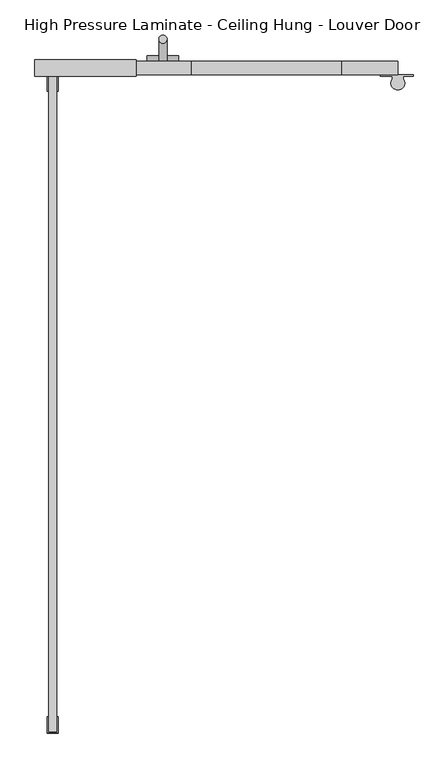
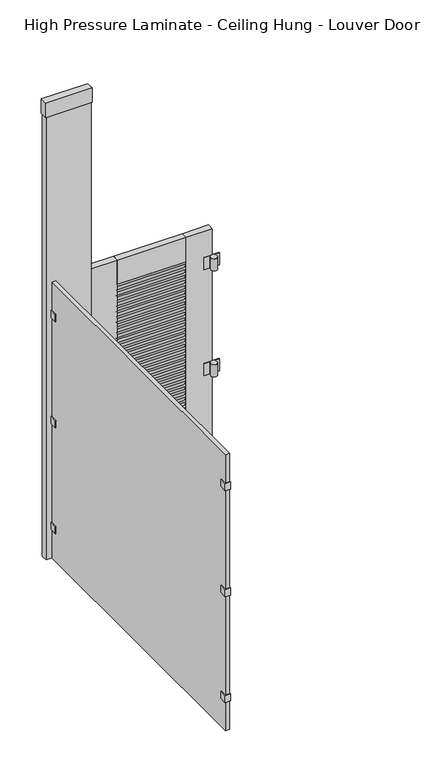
"""IFC4 building model written with IfcOpenShell, lengths in millimetres: proxy geometry, Toilet-Partition_Ironwood-Mfg_High-Pressure-Laminate : High Pressure Laminate - Ceiling Hung - Louver Door."""

from ifc_helpers import new_model, si_unit, point, frame, frame_2d, origin, place, context, project, spatial, polyline, circle_curve, ellipse_curve, trimmed, segment, composite_curve, outline, extrude, source, transform, mapped, element, save
from ifc_brep_helpers import plane_surface, cylinder_surface, advanced_brep


def high_pressure_laminate_ceiling_hung_louver_door_7c43876e(model_context):
    return source(origin(), model_context, "Body", "SolidModel", [
        extrude(outline(polyline([(-60.325, 1558.925), (-60.325, 1520.825), (-295.275, 1520.825), (-295.275, 1558.925), (-60.325, 1558.925)])), frame((0.0, 0.0, 2667.0), z_axis=(0.0, 0.0, 1.0), x_axis=(1.0, 0.0, 0.0)), (0.0, 0.0, 1.0), 76.1999999),
        extrude(outline(polyline([(-292.1, 1524.0), (-292.1, 1555.75), (-63.5, 1555.75), (-63.5, 1524.0), (-292.1, 1524.0)])), frame((0.0, 0.0, 304.8), z_axis=(0.0, 0.0, 1.0), x_axis=(1.0, 0.0, 0.0)), (0.0, 0.0, 1.0), 2362.2),
        extrude(outline(composite_curve([segment(trimmed(circle_curve(frame_2d((1530.4138614, 1607.2565147)), 4.7625), [point((1526.1333548, 1605.1687721))], [point((1534.6943681, 1609.3442573))], False, "CARTESIAN"), True, "CONTINUOUS"), segment(polyline([(1534.6943681, 1609.3442573), (1553.8502647, 1570.0688488)]), True, "CONTINUOUS"), segment(trimmed(circle_curve(frame_2d((1549.5697581, 1567.9811062)), 4.7625), [point((1553.8502647, 1570.0688488))], [point((1545.2892514, 1565.8933636))], False, "CARTESIAN"), True, "CONTINUOUS"), segment(polyline([(1545.2892514, 1565.8933636), (1526.1333548, 1605.1687721)]), True, "CONTINUOUS")], self_intersect=False)), frame((66.675, 0.0, 0.0), z_axis=(1.0, 0.0, 0.0), x_axis=(0.0, 1.0, 0.0)), (0.0, 0.0, 1.0), 349.25),
        extrude(outline(composite_curve([segment(trimmed(circle_curve(frame_2d((1530.4138614, 1578.9402604)), 4.7625), [point((1526.1333548, 1576.8525178))], [point((1534.6943681, 1581.0280029))], False, "CARTESIAN"), True, "CONTINUOUS"), segment(polyline([(1534.6943681, 1581.0280029), (1553.8502647, 1541.7525944)]), True, "CONTINUOUS"), segment(trimmed(circle_curve(frame_2d((1549.5697581, 1539.6648519)), 4.7625), [point((1553.8502647, 1541.7525944))], [point((1545.2892514, 1537.5771093))], False, "CARTESIAN"), True, "CONTINUOUS"), segment(polyline([(1545.2892514, 1537.5771093), (1526.1333548, 1576.8525178)]), True, "CONTINUOUS")], self_intersect=False)), frame((66.675, 0.0, 0.0), z_axis=(1.0, 0.0, 0.0), x_axis=(0.0, 1.0, 0.0)), (0.0, 0.0, 1.0), 349.25),
        extrude(outline(composite_curve([segment(trimmed(circle_curve(frame_2d((1530.4138614, 1550.624006)), 4.7625), [point((1526.1333548, 1548.5362634))], [point((1534.6943681, 1552.7117486))], False, "CARTESIAN"), True, "CONTINUOUS"), segment(polyline([(1534.6943681, 1552.7117486), (1553.8502647, 1513.4363401)]), True, "CONTINUOUS"), segment(trimmed(circle_curve(frame_2d((1549.5697581, 1511.3485975)), 4.7625), [point((1553.8502647, 1513.4363401))], [point((1545.2892514, 1509.2608549))], False, "CARTESIAN"), True, "CONTINUOUS"), segment(polyline([(1545.2892514, 1509.2608549), (1526.1333548, 1548.5362634)]), True, "CONTINUOUS")], self_intersect=False)), frame((66.675, 0.0, 0.0), z_axis=(1.0, 0.0, 0.0), x_axis=(0.0, 1.0, 0.0)), (0.0, 0.0, 1.0), 349.25),
        extrude(outline(composite_curve([segment(trimmed(circle_curve(frame_2d((1530.4138614, 1522.3077516)), 4.7625), [point((1526.1333548, 1520.220009))], [point((1534.6943681, 1524.3954942))], False, "CARTESIAN"), True, "CONTINUOUS"), segment(polyline([(1534.6943681, 1524.3954942), (1553.8502647, 1485.1200857)]), True, "CONTINUOUS"), segment(trimmed(circle_curve(frame_2d((1549.5697581, 1483.0323431)), 4.7625), [point((1553.8502647, 1485.1200857))], [point((1545.2892514, 1480.9446005))], False, "CARTESIAN"), True, "CONTINUOUS"), segment(polyline([(1545.2892514, 1480.9446005), (1526.1333548, 1520.220009)]), True, "CONTINUOUS")], self_intersect=False)), frame((66.675, 0.0, 0.0), z_axis=(1.0, 0.0, 0.0), x_axis=(0.0, 1.0, 0.0)), (0.0, 0.0, 1.0), 349.25),
        extrude(outline(composite_curve([segment(trimmed(circle_curve(frame_2d((1530.4138614, 1493.9914973)), 4.7625), [point((1526.1333548, 1491.9037547))], [point((1534.6943681, 1496.0792398))], False, "CARTESIAN"), True, "CONTINUOUS"), segment(polyline([(1534.6943681, 1496.0792398), (1553.8502647, 1456.8038313)]), True, "CONTINUOUS"), segment(trimmed(circle_curve(frame_2d((1549.5697581, 1454.7160888)), 4.7625), [point((1553.8502647, 1456.8038313))], [point((1545.2892514, 1452.6283462))], False, "CARTESIAN"), True, "CONTINUOUS"), segment(polyline([(1545.2892514, 1452.6283462), (1526.1333548, 1491.9037547)]), True, "CONTINUOUS")], self_intersect=False)), frame((66.675, 0.0, 0.0), z_axis=(1.0, 0.0, 0.0), x_axis=(0.0, 1.0, 0.0)), (0.0, 0.0, 1.0), 349.25),
        extrude(outline(composite_curve([segment(trimmed(circle_curve(frame_2d((1530.4138614, 1465.6752429)), 4.7625), [point((1526.1333548, 1463.5875003))], [point((1534.6943681, 1467.7629855))], False, "CARTESIAN"), True, "CONTINUOUS"), segment(polyline([(1534.6943681, 1467.7629855), (1553.8502647, 1428.487577)]), True, "CONTINUOUS"), segment(trimmed(circle_curve(frame_2d((1549.5697581, 1426.3998344)), 4.7625), [point((1553.8502647, 1428.487577))], [point((1545.2892514, 1424.3120918))], False, "CARTESIAN"), True, "CONTINUOUS"), segment(polyline([(1545.2892514, 1424.3120918), (1526.1333548, 1463.5875003)]), True, "CONTINUOUS")], self_intersect=False)), frame((66.675, 0.0, 0.0), z_axis=(1.0, 0.0, 0.0), x_axis=(0.0, 1.0, 0.0)), (0.0, 0.0, 1.0), 349.25),
        extrude(outline(composite_curve([segment(trimmed(circle_curve(frame_2d((1530.4138614, 1437.3589885)), 4.7625), [point((1526.1333548, 1435.2712459))], [point((1534.6943681, 1439.4467311))], False, "CARTESIAN"), True, "CONTINUOUS"), segment(polyline([(1534.6943681, 1439.4467311), (1553.8502647, 1400.1713226)]), True, "CONTINUOUS"), segment(trimmed(circle_curve(frame_2d((1549.5697581, 1398.08358)), 4.7625), [point((1553.8502647, 1400.1713226))], [point((1545.2892514, 1395.9958374))], False, "CARTESIAN"), True, "CONTINUOUS"), segment(polyline([(1545.2892514, 1395.9958374), (1526.1333548, 1435.2712459)]), True, "CONTINUOUS")], self_intersect=False)), frame((66.675, 0.0, 0.0), z_axis=(1.0, 0.0, 0.0), x_axis=(0.0, 1.0, 0.0)), (0.0, 0.0, 1.0), 349.25),
        extrude(outline(composite_curve([segment(trimmed(circle_curve(frame_2d((1530.4138614, 1409.0427342)), 4.7625), [point((1526.1333548, 1406.9549916))], [point((1534.6943681, 1411.1304767))], False, "CARTESIAN"), True, "CONTINUOUS"), segment(polyline([(1534.6943681, 1411.1304767), (1553.8502647, 1371.8550682)]), True, "CONTINUOUS"), segment(trimmed(circle_curve(frame_2d((1549.5697581, 1369.7673257)), 4.7625), [point((1553.8502647, 1371.8550682))], [point((1545.2892514, 1367.6795831))], False, "CARTESIAN"), True, "CONTINUOUS"), segment(polyline([(1545.2892514, 1367.6795831), (1526.1333548, 1406.9549916)]), True, "CONTINUOUS")], self_intersect=False)), frame((66.675, 0.0, 0.0), z_axis=(1.0, 0.0, 0.0), x_axis=(0.0, 1.0, 0.0)), (0.0, 0.0, 1.0), 349.25),
        extrude(outline(composite_curve([segment(trimmed(circle_curve(frame_2d((1530.4138614, 1380.7264798)), 4.7625), [point((1526.1333548, 1378.6387372))], [point((1534.6943681, 1382.8142224))], False, "CARTESIAN"), True, "CONTINUOUS"), segment(polyline([(1534.6943681, 1382.8142224), (1553.8502647, 1343.5388139)]), True, "CONTINUOUS"), segment(trimmed(circle_curve(frame_2d((1549.5697581, 1341.4510713)), 4.7625), [point((1553.8502647, 1343.5388139))], [point((1545.2892514, 1339.3633287))], False, "CARTESIAN"), True, "CONTINUOUS"), segment(polyline([(1545.2892514, 1339.3633287), (1526.1333548, 1378.6387372)]), True, "CONTINUOUS")], self_intersect=False)), frame((66.675, 0.0, 0.0), z_axis=(1.0, 0.0, 0.0), x_axis=(0.0, 1.0, 0.0)), (0.0, 0.0, 1.0), 349.25),
        extrude(outline(composite_curve([segment(trimmed(circle_curve(frame_2d((1530.4138614, 1352.4102254)), 4.7625), [point((1526.1333548, 1350.3224828))], [point((1534.6943681, 1354.497968))], False, "CARTESIAN"), True, "CONTINUOUS"), segment(polyline([(1534.6943681, 1354.497968), (1553.8502647, 1315.2225595)]), True, "CONTINUOUS"), segment(trimmed(circle_curve(frame_2d((1549.5697581, 1313.1348169)), 4.7625), [point((1553.8502647, 1315.2225595))], [point((1545.2892514, 1311.0470743))], False, "CARTESIAN"), True, "CONTINUOUS"), segment(polyline([(1545.2892514, 1311.0470743), (1526.1333548, 1350.3224828)]), True, "CONTINUOUS")], self_intersect=False)), frame((66.675, 0.0, 0.0), z_axis=(1.0, 0.0, 0.0), x_axis=(0.0, 1.0, 0.0)), (0.0, 0.0, 1.0), 349.25),
        extrude(outline(composite_curve([segment(trimmed(circle_curve(frame_2d((1530.4138614, 1324.0939711)), 4.7625), [point((1526.1333548, 1322.0062285))], [point((1534.6943681, 1326.1817137))], False, "CARTESIAN"), True, "CONTINUOUS"), segment(polyline([(1534.6943681, 1326.1817137), (1553.8502647, 1286.9063052)]), True, "CONTINUOUS"), segment(trimmed(circle_curve(frame_2d((1549.5697581, 1284.8185626)), 4.7625), [point((1553.8502647, 1286.9063052))], [point((1545.2892514, 1282.73082))], False, "CARTESIAN"), True, "CONTINUOUS"), segment(polyline([(1545.2892514, 1282.73082), (1526.1333548, 1322.0062285)]), True, "CONTINUOUS")], self_intersect=False)), frame((66.675, 0.0, 0.0), z_axis=(1.0, 0.0, 0.0), x_axis=(0.0, 1.0, 0.0)), (0.0, 0.0, 1.0), 349.25),
        extrude(outline(composite_curve([segment(trimmed(circle_curve(frame_2d((1530.4138614, 1295.7777167)), 4.7625), [point((1526.1333548, 1293.6899741))], [point((1534.6943681, 1297.8654593))], False, "CARTESIAN"), True, "CONTINUOUS"), segment(polyline([(1534.6943681, 1297.8654593), (1553.8502647, 1258.5900508)]), True, "CONTINUOUS"), segment(trimmed(circle_curve(frame_2d((1549.5697581, 1256.5023082)), 4.7625), [point((1553.8502647, 1258.5900508))], [point((1545.2892514, 1254.4145656))], False, "CARTESIAN"), True, "CONTINUOUS"), segment(polyline([(1545.2892514, 1254.4145656), (1526.1333548, 1293.6899741)]), True, "CONTINUOUS")], self_intersect=False)), frame((66.675, 0.0, 0.0), z_axis=(1.0, 0.0, 0.0), x_axis=(0.0, 1.0, 0.0)), (0.0, 0.0, 1.0), 349.25),
        extrude(outline(composite_curve([segment(trimmed(circle_curve(frame_2d((1530.4138614, 1267.4614623)), 4.7625), [point((1526.1333548, 1265.3737197))], [point((1534.6943681, 1269.5492049))], False, "CARTESIAN"), True, "CONTINUOUS"), segment(polyline([(1534.6943681, 1269.5492049), (1553.8502647, 1230.2737964)]), True, "CONTINUOUS"), segment(trimmed(circle_curve(frame_2d((1549.5697581, 1228.1860538)), 4.7625), [point((1553.8502647, 1230.2737964))], [point((1545.2892514, 1226.0983112))], False, "CARTESIAN"), True, "CONTINUOUS"), segment(polyline([(1545.2892514, 1226.0983112), (1526.1333548, 1265.3737197)]), True, "CONTINUOUS")], self_intersect=False)), frame((66.675, 0.0, 0.0), z_axis=(1.0, 0.0, 0.0), x_axis=(0.0, 1.0, 0.0)), (0.0, 0.0, 1.0), 349.25),
        extrude(outline(composite_curve([segment(trimmed(circle_curve(frame_2d((1530.4138614, 1239.145208)), 4.7625), [point((1526.1333548, 1237.0574654))], [point((1534.6943681, 1241.2329506))], False, "CARTESIAN"), True, "CONTINUOUS"), segment(polyline([(1534.6943681, 1241.2329506), (1553.8502647, 1201.9575421)]), True, "CONTINUOUS"), segment(trimmed(circle_curve(frame_2d((1549.5697581, 1199.8697995)), 4.7625), [point((1553.8502647, 1201.9575421))], [point((1545.2892514, 1197.7820569))], False, "CARTESIAN"), True, "CONTINUOUS"), segment(polyline([(1545.2892514, 1197.7820569), (1526.1333548, 1237.0574654)]), True, "CONTINUOUS")], self_intersect=False)), frame((66.675, 0.0, 0.0), z_axis=(1.0, 0.0, 0.0), x_axis=(0.0, 1.0, 0.0)), (0.0, 0.0, 1.0), 349.25),
        extrude(outline(composite_curve([segment(trimmed(circle_curve(frame_2d((1530.4138614, 1210.8289536)), 4.7625), [point((1526.1333548, 1208.741211))], [point((1534.6943681, 1212.9166962))], False, "CARTESIAN"), True, "CONTINUOUS"), segment(polyline([(1534.6943681, 1212.9166962), (1553.8502647, 1173.6412877)]), True, "CONTINUOUS"), segment(trimmed(circle_curve(frame_2d((1549.5697581, 1171.5535451)), 4.7625), [point((1553.8502647, 1173.6412877))], [point((1545.2892514, 1169.4658025))], False, "CARTESIAN"), True, "CONTINUOUS"), segment(polyline([(1545.2892514, 1169.4658025), (1526.1333548, 1208.741211)]), True, "CONTINUOUS")], self_intersect=False)), frame((66.675, 0.0, 0.0), z_axis=(1.0, 0.0, 0.0), x_axis=(0.0, 1.0, 0.0)), (0.0, 0.0, 1.0), 349.25),
        extrude(outline(composite_curve([segment(trimmed(circle_curve(frame_2d((1530.4138614, 1182.5126992)), 4.7625), [point((1526.1333548, 1180.4249567))], [point((1534.6943681, 1184.6004418))], False, "CARTESIAN"), True, "CONTINUOUS"), segment(polyline([(1534.6943681, 1184.6004418), (1553.8502647, 1145.3250333)]), True, "CONTINUOUS"), segment(trimmed(circle_curve(frame_2d((1549.5697581, 1143.2372907)), 4.7625), [point((1553.8502647, 1145.3250333))], [point((1545.2892514, 1141.1495482))], False, "CARTESIAN"), True, "CONTINUOUS"), segment(polyline([(1545.2892514, 1141.1495482), (1526.1333548, 1180.4249567)]), True, "CONTINUOUS")], self_intersect=False)), frame((66.675, 0.0, 0.0), z_axis=(1.0, 0.0, 0.0), x_axis=(0.0, 1.0, 0.0)), (0.0, 0.0, 1.0), 349.25),
        extrude(outline(composite_curve([segment(trimmed(circle_curve(frame_2d((1530.4138614, 1154.1964449)), 4.7625), [point((1526.1333548, 1152.1087023))], [point((1534.6943681, 1156.2841875))], False, "CARTESIAN"), True, "CONTINUOUS"), segment(polyline([(1534.6943681, 1156.2841875), (1553.8502647, 1117.008779)]), True, "CONTINUOUS"), segment(trimmed(circle_curve(frame_2d((1549.5697581, 1114.9210364)), 4.7625), [point((1553.8502647, 1117.008779))], [point((1545.2892514, 1112.8332938))], False, "CARTESIAN"), True, "CONTINUOUS"), segment(polyline([(1545.2892514, 1112.8332938), (1526.1333548, 1152.1087023)]), True, "CONTINUOUS")], self_intersect=False)), frame((66.675, 0.0, 0.0), z_axis=(1.0, 0.0, 0.0), x_axis=(0.0, 1.0, 0.0)), (0.0, 0.0, 1.0), 349.25),
        extrude(outline(composite_curve([segment(trimmed(circle_curve(frame_2d((1530.4138614, 1125.8801905)), 4.7625), [point((1526.1333548, 1123.7924479))], [point((1534.6943681, 1127.9679331))], False, "CARTESIAN"), True, "CONTINUOUS"), segment(polyline([(1534.6943681, 1127.9679331), (1553.8502647, 1088.6925246)]), True, "CONTINUOUS"), segment(trimmed(circle_curve(frame_2d((1549.5697581, 1086.604782)), 4.7625), [point((1553.8502647, 1088.6925246))], [point((1545.2892514, 1084.5170394))], False, "CARTESIAN"), True, "CONTINUOUS"), segment(polyline([(1545.2892514, 1084.5170394), (1526.1333548, 1123.7924479)]), True, "CONTINUOUS")], self_intersect=False)), frame((66.675, 0.0, 0.0), z_axis=(1.0, 0.0, 0.0), x_axis=(0.0, 1.0, 0.0)), (0.0, 0.0, 1.0), 349.25),
        extrude(outline(composite_curve([segment(trimmed(circle_curve(frame_2d((1530.4138614, 1097.5639361)), 4.7625), [point((1526.1333548, 1095.4761936))], [point((1534.6943681, 1099.6516787))], False, "CARTESIAN"), True, "CONTINUOUS"), segment(polyline([(1534.6943681, 1099.6516787), (1553.8502647, 1060.3762702)]), True, "CONTINUOUS"), segment(trimmed(circle_curve(frame_2d((1549.5697581, 1058.2885276)), 4.7625), [point((1553.8502647, 1060.3762702))], [point((1545.2892514, 1056.2007851))], False, "CARTESIAN"), True, "CONTINUOUS"), segment(polyline([(1545.2892514, 1056.2007851), (1526.1333548, 1095.4761936)]), True, "CONTINUOUS")], self_intersect=False)), frame((66.675, 0.0, 0.0), z_axis=(1.0, 0.0, 0.0), x_axis=(0.0, 1.0, 0.0)), (0.0, 0.0, 1.0), 349.25),
        extrude(outline(composite_curve([segment(trimmed(circle_curve(frame_2d((1530.4138614, 1069.2476818)), 4.7625), [point((1526.1333548, 1067.1599392))], [point((1534.6943681, 1071.3354244))], False, "CARTESIAN"), True, "CONTINUOUS"), segment(polyline([(1534.6943681, 1071.3354244), (1553.8502647, 1032.0600159)]), True, "CONTINUOUS"), segment(trimmed(circle_curve(frame_2d((1549.5697581, 1029.9722733)), 4.7625), [point((1553.8502647, 1032.0600159))], [point((1545.2892514, 1027.8845307))], False, "CARTESIAN"), True, "CONTINUOUS"), segment(polyline([(1545.2892514, 1027.8845307), (1526.1333548, 1067.1599392)]), True, "CONTINUOUS")], self_intersect=False)), frame((66.675, 0.0, 0.0), z_axis=(1.0, 0.0, 0.0), x_axis=(0.0, 1.0, 0.0)), (0.0, 0.0, 1.0), 349.25),
        extrude(outline(composite_curve([segment(trimmed(circle_curve(frame_2d((1530.4138614, 1040.9314274)), 4.7625), [point((1526.1333548, 1038.8436848))], [point((1534.6943681, 1043.01917))], False, "CARTESIAN"), True, "CONTINUOUS"), segment(polyline([(1534.6943681, 1043.01917), (1553.8502647, 1003.7437615)]), True, "CONTINUOUS"), segment(trimmed(circle_curve(frame_2d((1549.5697581, 1001.6560189)), 4.7625), [point((1553.8502647, 1003.7437615))], [point((1545.2892514, 999.5682763))], False, "CARTESIAN"), True, "CONTINUOUS"), segment(polyline([(1545.2892514, 999.5682763), (1526.1333548, 1038.8436848)]), True, "CONTINUOUS")], self_intersect=False)), frame((66.675, 0.0, 0.0), z_axis=(1.0, 0.0, 0.0), x_axis=(0.0, 1.0, 0.0)), (0.0, 0.0, 1.0), 349.25),
        extrude(outline(composite_curve([segment(trimmed(circle_curve(frame_2d((1530.4138614, 1012.615173)), 4.7625), [point((1526.1333548, 1010.5274305))], [point((1534.6943681, 1014.7029156))], False, "CARTESIAN"), True, "CONTINUOUS"), segment(polyline([(1534.6943681, 1014.7029156), (1553.8502647, 975.4275071)]), True, "CONTINUOUS"), segment(trimmed(circle_curve(frame_2d((1549.5697581, 973.3397645)), 4.7625), [point((1553.8502647, 975.4275071))], [point((1545.2892514, 971.252022))], False, "CARTESIAN"), True, "CONTINUOUS"), segment(polyline([(1545.2892514, 971.252022), (1526.1333548, 1010.5274305)]), True, "CONTINUOUS")], self_intersect=False)), frame((66.675, 0.0, 0.0), z_axis=(1.0, 0.0, 0.0), x_axis=(0.0, 1.0, 0.0)), (0.0, 0.0, 1.0), 349.25),
        extrude(outline(composite_curve([segment(trimmed(circle_curve(frame_2d((1530.4138614, 984.2989187)), 4.7625), [point((1526.1333548, 982.2111761))], [point((1534.6943681, 986.3866613))], False, "CARTESIAN"), True, "CONTINUOUS"), segment(polyline([(1534.6943681, 986.3866613), (1553.8502647, 947.1112528)]), True, "CONTINUOUS"), segment(trimmed(circle_curve(frame_2d((1549.5697581, 945.0235102)), 4.7625), [point((1553.8502647, 947.1112528))], [point((1545.2892514, 942.9357676))], False, "CARTESIAN"), True, "CONTINUOUS"), segment(polyline([(1545.2892514, 942.9357676), (1526.1333548, 982.2111761)]), True, "CONTINUOUS")], self_intersect=False)), frame((66.675, 0.0, 0.0), z_axis=(1.0, 0.0, 0.0), x_axis=(0.0, 1.0, 0.0)), (0.0, 0.0, 1.0), 349.25),
        extrude(outline(composite_curve([segment(trimmed(circle_curve(frame_2d((1530.4138614, 955.9826643)), 4.7625), [point((1526.1333548, 953.8949217))], [point((1534.6943681, 958.0704069))], False, "CARTESIAN"), True, "CONTINUOUS"), segment(polyline([(1534.6943681, 958.0704069), (1553.8502647, 918.7949984)]), True, "CONTINUOUS"), segment(trimmed(circle_curve(frame_2d((1549.5697581, 916.7072558)), 4.7625), [point((1553.8502647, 918.7949984))], [point((1545.2892514, 914.6195132))], False, "CARTESIAN"), True, "CONTINUOUS"), segment(polyline([(1545.2892514, 914.6195132), (1526.1333548, 953.8949217)]), True, "CONTINUOUS")], self_intersect=False)), frame((66.675, 0.0, 0.0), z_axis=(1.0, 0.0, 0.0), x_axis=(0.0, 1.0, 0.0)), (0.0, 0.0, 1.0), 349.25),
        extrude(outline(composite_curve([segment(trimmed(circle_curve(frame_2d((1530.4138614, 927.6664099)), 4.7625), [point((1526.1333548, 925.5786674))], [point((1534.6943681, 929.7541525))], False, "CARTESIAN"), True, "CONTINUOUS"), segment(polyline([(1534.6943681, 929.7541525), (1553.8502647, 890.478744)]), True, "CONTINUOUS"), segment(trimmed(circle_curve(frame_2d((1549.5697581, 888.3910014)), 4.7625), [point((1553.8502647, 890.478744))], [point((1545.2892514, 886.3032589))], False, "CARTESIAN"), True, "CONTINUOUS"), segment(polyline([(1545.2892514, 886.3032589), (1526.1333548, 925.5786674)]), True, "CONTINUOUS")], self_intersect=False)), frame((66.675, 0.0, 0.0), z_axis=(1.0, 0.0, 0.0), x_axis=(0.0, 1.0, 0.0)), (0.0, 0.0, 1.0), 349.25),
        extrude(outline(composite_curve([segment(trimmed(circle_curve(frame_2d((1530.4138614, 899.3501556)), 4.7625), [point((1526.1333548, 897.262413))], [point((1534.6943681, 901.4378982))], False, "CARTESIAN"), True, "CONTINUOUS"), segment(polyline([(1534.6943681, 901.4378982), (1553.8502647, 862.1624897)]), True, "CONTINUOUS"), segment(trimmed(circle_curve(frame_2d((1549.5697581, 860.0747471)), 4.7625), [point((1553.8502647, 862.1624897))], [point((1545.2892514, 857.9870045))], False, "CARTESIAN"), True, "CONTINUOUS"), segment(polyline([(1545.2892514, 857.9870045), (1526.1333548, 897.262413)]), True, "CONTINUOUS")], self_intersect=False)), frame((66.675, 0.0, 0.0), z_axis=(1.0, 0.0, 0.0), x_axis=(0.0, 1.0, 0.0)), (0.0, 0.0, 1.0), 349.25),
        extrude(outline(composite_curve([segment(trimmed(circle_curve(frame_2d((1530.4138614, 871.0339012)), 4.7625), [point((1526.1333548, 868.9461586))], [point((1534.6943681, 873.1216438))], False, "CARTESIAN"), True, "CONTINUOUS"), segment(polyline([(1534.6943681, 873.1216438), (1553.8502647, 833.8462353)]), True, "CONTINUOUS"), segment(trimmed(circle_curve(frame_2d((1549.5697581, 831.7584927)), 4.7625), [point((1553.8502647, 833.8462353))], [point((1545.2892514, 829.6707501))], False, "CARTESIAN"), True, "CONTINUOUS"), segment(polyline([(1545.2892514, 829.6707501), (1526.1333548, 868.9461586)]), True, "CONTINUOUS")], self_intersect=False)), frame((66.675, 0.0, 0.0), z_axis=(1.0, 0.0, 0.0), x_axis=(0.0, 1.0, 0.0)), (0.0, 0.0, 1.0), 349.25),
        extrude(outline(composite_curve([segment(trimmed(circle_curve(frame_2d((1530.4138614, 842.7176469)), 4.7625), [point((1526.1333548, 840.6299043))], [point((1534.6943681, 844.8053894))], False, "CARTESIAN"), True, "CONTINUOUS"), segment(polyline([(1534.6943681, 844.8053894), (1553.8502647, 805.5299809)]), True, "CONTINUOUS"), segment(trimmed(circle_curve(frame_2d((1549.5697581, 803.4422384)), 4.7625), [point((1553.8502647, 805.5299809))], [point((1545.2892514, 801.3544958))], False, "CARTESIAN"), True, "CONTINUOUS"), segment(polyline([(1545.2892514, 801.3544958), (1526.1333548, 840.6299043)]), True, "CONTINUOUS")], self_intersect=False)), frame((66.675, 0.0, 0.0), z_axis=(1.0, 0.0, 0.0), x_axis=(0.0, 1.0, 0.0)), (0.0, 0.0, 1.0), 349.25),
        extrude(outline(composite_curve([segment(trimmed(circle_curve(frame_2d((1530.4138614, 814.4013925)), 4.7625), [point((1526.1333548, 812.3136499))], [point((1534.6943681, 816.4891351))], False, "CARTESIAN"), True, "CONTINUOUS"), segment(polyline([(1534.6943681, 816.4891351), (1553.8502647, 777.2137266)]), True, "CONTINUOUS"), segment(trimmed(circle_curve(frame_2d((1549.5697581, 775.125984)), 4.7625), [point((1553.8502647, 777.2137266))], [point((1545.2892514, 773.0382414))], False, "CARTESIAN"), True, "CONTINUOUS"), segment(polyline([(1545.2892514, 773.0382414), (1526.1333548, 812.3136499)]), True, "CONTINUOUS")], self_intersect=False)), frame((66.675, 0.0, 0.0), z_axis=(1.0, 0.0, 0.0), x_axis=(0.0, 1.0, 0.0)), (0.0, 0.0, 1.0), 349.25),
        extrude(outline(composite_curve([segment(trimmed(circle_curve(frame_2d((1530.4138614, 786.0851381)), 4.7625), [point((1526.1333548, 783.9973955))], [point((1534.6943681, 788.1728807))], False, "CARTESIAN"), True, "CONTINUOUS"), segment(polyline([(1534.6943681, 788.1728807), (1553.8502647, 748.8974722)]), True, "CONTINUOUS"), segment(trimmed(circle_curve(frame_2d((1549.5697581, 746.8097296)), 4.7625), [point((1553.8502647, 748.8974722))], [point((1545.2892514, 744.721987))], False, "CARTESIAN"), True, "CONTINUOUS"), segment(polyline([(1545.2892514, 744.721987), (1526.1333548, 783.9973955)]), True, "CONTINUOUS")], self_intersect=False)), frame((66.675, 0.0, 0.0), z_axis=(1.0, 0.0, 0.0), x_axis=(0.0, 1.0, 0.0)), (0.0, 0.0, 1.0), 349.25),
        extrude(outline(composite_curve([segment(trimmed(circle_curve(frame_2d((1530.4138614, 757.7688838)), 4.7625), [point((1526.1333548, 755.6811412))], [point((1534.6943681, 759.8566263))], False, "CARTESIAN"), True, "CONTINUOUS"), segment(polyline([(1534.6943681, 759.8566263), (1553.8502647, 720.5812178)]), True, "CONTINUOUS"), segment(trimmed(circle_curve(frame_2d((1549.5697581, 718.4934753)), 4.7625), [point((1553.8502647, 720.5812178))], [point((1545.2892514, 716.4057327))], False, "CARTESIAN"), True, "CONTINUOUS"), segment(polyline([(1545.2892514, 716.4057327), (1526.1333548, 755.6811412)]), True, "CONTINUOUS")], self_intersect=False)), frame((66.675, 0.0, 0.0), z_axis=(1.0, 0.0, 0.0), x_axis=(0.0, 1.0, 0.0)), (0.0, 0.0, 1.0), 349.25),
        extrude(outline(composite_curve([segment(trimmed(circle_curve(frame_2d((1530.4138614, 729.4526294)), 4.7625), [point((1526.1333548, 727.3648868))], [point((1534.6943681, 731.540372))], False, "CARTESIAN"), True, "CONTINUOUS"), segment(polyline([(1534.6943681, 731.540372), (1553.8502647, 692.2649635)]), True, "CONTINUOUS"), segment(trimmed(circle_curve(frame_2d((1549.5697581, 690.1772209)), 4.7625), [point((1553.8502647, 692.2649635))], [point((1545.2892514, 688.0894783))], False, "CARTESIAN"), True, "CONTINUOUS"), segment(polyline([(1545.2892514, 688.0894783), (1526.1333548, 727.3648868)]), True, "CONTINUOUS")], self_intersect=False)), frame((66.675, 0.0, 0.0), z_axis=(1.0, 0.0, 0.0), x_axis=(0.0, 1.0, 0.0)), (0.0, 0.0, 1.0), 349.25),
        extrude(outline(composite_curve([segment(trimmed(circle_curve(frame_2d((1530.4138614, 701.136375)), 4.7625), [point((1526.1333548, 699.0486324))], [point((1534.6943681, 703.2241176))], False, "CARTESIAN"), True, "CONTINUOUS"), segment(polyline([(1534.6943681, 703.2241176), (1553.8502647, 663.9487091)]), True, "CONTINUOUS"), segment(trimmed(circle_curve(frame_2d((1549.5697581, 661.8609665)), 4.7625), [point((1553.8502647, 663.9487091))], [point((1545.2892514, 659.7732239))], False, "CARTESIAN"), True, "CONTINUOUS"), segment(polyline([(1545.2892514, 659.7732239), (1526.1333548, 699.0486324)]), True, "CONTINUOUS")], self_intersect=False)), frame((66.675, 0.0, 0.0), z_axis=(1.0, 0.0, 0.0), x_axis=(0.0, 1.0, 0.0)), (0.0, 0.0, 1.0), 349.25),
        extrude(outline(composite_curve([segment(trimmed(circle_curve(frame_2d((1530.4138614, 672.8201207)), 4.7625), [point((1526.1333548, 670.7323781))], [point((1534.6943681, 674.9078632))], False, "CARTESIAN"), True, "CONTINUOUS"), segment(polyline([(1534.6943681, 674.9078632), (1553.8502647, 635.6324547)]), True, "CONTINUOUS"), segment(trimmed(circle_curve(frame_2d((1549.5697581, 633.5447122)), 4.7625), [point((1553.8502647, 635.6324547))], [point((1545.2892514, 631.4569696))], False, "CARTESIAN"), True, "CONTINUOUS"), segment(polyline([(1545.2892514, 631.4569696), (1526.1333548, 670.7323781)]), True, "CONTINUOUS")], self_intersect=False)), frame((66.675, 0.0, 0.0), z_axis=(1.0, 0.0, 0.0), x_axis=(0.0, 1.0, 0.0)), (0.0, 0.0, 1.0), 349.25),
        extrude(outline(composite_curve([segment(trimmed(circle_curve(frame_2d((1530.4138614, 644.5038663)), 4.7625), [point((1526.1333548, 642.4161237))], [point((1534.6943681, 646.5916089))], False, "CARTESIAN"), True, "CONTINUOUS"), segment(polyline([(1534.6943681, 646.5916089), (1553.8502647, 607.3162004)]), True, "CONTINUOUS"), segment(trimmed(circle_curve(frame_2d((1549.5697581, 605.2284578)), 4.7625), [point((1553.8502647, 607.3162004))], [point((1545.2892514, 603.1407152))], False, "CARTESIAN"), True, "CONTINUOUS"), segment(polyline([(1545.2892514, 603.1407152), (1526.1333548, 642.4161237)]), True, "CONTINUOUS")], self_intersect=False)), frame((66.675, 0.0, 0.0), z_axis=(1.0, 0.0, 0.0), x_axis=(0.0, 1.0, 0.0)), (0.0, 0.0, 1.0), 349.25),
        extrude(outline(composite_curve([segment(trimmed(circle_curve(frame_2d((1530.4138614, 616.1876119)), 4.7625), [point((1526.1333548, 614.0998693))], [point((1534.6943681, 618.2753545))], False, "CARTESIAN"), True, "CONTINUOUS"), segment(polyline([(1534.6943681, 618.2753545), (1553.8502647, 578.999946)]), True, "CONTINUOUS"), segment(trimmed(circle_curve(frame_2d((1549.5697581, 576.9122034)), 4.7625), [point((1553.8502647, 578.999946))], [point((1545.2892514, 574.8244608))], False, "CARTESIAN"), True, "CONTINUOUS"), segment(polyline([(1545.2892514, 574.8244608), (1526.1333548, 614.0998693)]), True, "CONTINUOUS")], self_intersect=False)), frame((66.675, 0.0, 0.0), z_axis=(1.0, 0.0, 0.0), x_axis=(0.0, 1.0, 0.0)), (0.0, 0.0, 1.0), 349.25),
        extrude(outline(composite_curve([segment(trimmed(circle_curve(frame_2d((1530.4138614, 587.8713576)), 4.7625), [point((1526.1333548, 585.783615))], [point((1534.6943681, 589.9591001))], False, "CARTESIAN"), True, "CONTINUOUS"), segment(polyline([(1534.6943681, 589.9591001), (1553.8502647, 550.6836917)]), True, "CONTINUOUS"), segment(trimmed(circle_curve(frame_2d((1549.5697581, 548.5959491)), 4.7625), [point((1553.8502647, 550.6836917))], [point((1545.2892514, 546.5082065))], False, "CARTESIAN"), True, "CONTINUOUS"), segment(polyline([(1545.2892514, 546.5082065), (1526.1333548, 585.783615)]), True, "CONTINUOUS")], self_intersect=False)), frame((66.675, 0.0, 0.0), z_axis=(1.0, 0.0, 0.0), x_axis=(0.0, 1.0, 0.0)), (0.0, 0.0, 1.0), 349.25),
        extrude(outline(composite_curve([segment(trimmed(circle_curve(frame_2d((1530.4138614, 559.5551032)), 4.7625), [point((1526.1333548, 557.4673606))], [point((1534.6943681, 561.6428458))], False, "CARTESIAN"), True, "CONTINUOUS"), segment(polyline([(1534.6943681, 561.6428458), (1553.8502647, 522.3674373)]), True, "CONTINUOUS"), segment(trimmed(circle_curve(frame_2d((1549.5697581, 520.2796947)), 4.7625), [point((1553.8502647, 522.3674373))], [point((1545.2892514, 518.1919521))], False, "CARTESIAN"), True, "CONTINUOUS"), segment(polyline([(1545.2892514, 518.1919521), (1526.1333548, 557.4673606)]), True, "CONTINUOUS")], self_intersect=False)), frame((66.675, 0.0, 0.0), z_axis=(1.0, 0.0, 0.0), x_axis=(0.0, 1.0, 0.0)), (0.0, 0.0, 1.0), 349.25),
        extrude(outline(composite_curve([segment(trimmed(circle_curve(frame_2d((1530.4138614, 1635.5727691)), 4.7625), [point((1526.1333548, 1633.4850265))], [point((1534.6943681, 1637.6605117))], False, "CARTESIAN"), True, "CONTINUOUS"), segment(polyline([(1534.6943681, 1637.6605117), (1553.8502647, 1598.3851032)]), True, "CONTINUOUS"), segment(trimmed(circle_curve(frame_2d((1549.5697581, 1596.2973606)), 4.7625), [point((1553.8502647, 1598.3851032))], [point((1545.2892514, 1594.209618))], False, "CARTESIAN"), True, "CONTINUOUS"), segment(polyline([(1545.2892514, 1594.209618), (1526.1333548, 1633.4850265)]), True, "CONTINUOUS")], self_intersect=False)), frame((66.675, 0.0, 0.0), z_axis=(1.0, 0.0, 0.0), x_axis=(0.0, 1.0, 0.0)), (0.0, 0.0, 1.0), 349.25),
        extrude(outline(composite_curve([segment(trimmed(circle_curve(frame_2d((1530.4138614, 531.2388488)), 4.7625), [point((1526.1333548, 529.1511062))], [point((1534.6943681, 533.3265914))], False, "CARTESIAN"), True, "CONTINUOUS"), segment(polyline([(1534.6943681, 533.3265914), (1553.8502647, 494.0511829)]), True, "CONTINUOUS"), segment(trimmed(circle_curve(frame_2d((1549.5697581, 491.9634403)), 4.7625), [point((1553.8502647, 494.0511829))], [point((1545.2892514, 489.8756977))], False, "CARTESIAN"), True, "CONTINUOUS"), segment(polyline([(1545.2892514, 489.8756977), (1526.1333548, 529.1511062)]), True, "CONTINUOUS")], self_intersect=False)), frame((66.675, 0.0, 0.0), z_axis=(1.0, 0.0, 0.0), x_axis=(0.0, 1.0, 0.0)), (0.0, 0.0, 1.0), 349.25),
        extrude(outline(polyline([(66.675, 1524.0), (-63.5, 1524.0), (-63.5, 1555.75), (66.675, 1555.75), (66.675, 1524.0)])), frame((0.0, 0.0, 304.8), z_axis=(0.0, 0.0, 1.0), x_axis=(1.0, 0.0, 0.0)), (0.0, 0.0, 1.0), 1473.2),
        extrude(outline(polyline([(415.925, 1524.0), (415.925, 1555.75), (546.1, 1555.75), (546.1, 1524.0), (415.925, 1524.0)])), frame((0.0, 0.0, 304.8), z_axis=(0.0, 0.0, 1.0), x_axis=(1.0, 0.0, 0.0)), (0.0, 0.0, 1.0), 1473.2),
        extrude(outline(polyline([(415.925, 1524.0), (66.675, 1524.0), (66.675, 1555.75), (415.925, 1555.75), (415.925, 1524.0)])), frame((0.0, 0.0, 1647.825), z_axis=(0.0, 0.0, 1.0), x_axis=(1.0, 0.0, 0.0)), (0.0, 0.0, 1.0), 130.175),
        extrude(outline(polyline([(415.925, 1524.0), (66.675, 1524.0), (66.675, 1555.75), (415.925, 1555.75), (415.925, 1524.0)])), frame((0.0, 0.0, 304.8), z_axis=(0.0, 0.0, 1.0), x_axis=(1.0, 0.0, 0.0)), (0.0, 0.0, 1.0), 174.625),
        extrude(outline(composite_curve([segment(trimmed(circle_curve(frame_2d((827.0875, 1.5875)), 36.5125), [point((827.0875, -34.925))], [point((827.0875, 38.1))], False, "CARTESIAN"), True, "CONTINUOUS"), segment(trimmed(circle_curve(frame_2d((827.0875, 1.5875)), 36.5125), [point((827.0875, 38.1))], [point((827.0875, -34.925))], False, "CARTESIAN"), True, "CONTINUOUS")], self_intersect=False)), frame((0.0, 1555.75, 0.0), z_axis=(0.0, 1.0, 0.0), x_axis=(0.0, 0.0, 1.0)), (0.0, 0.0, 1.0), 12.7),
        advanced_brep(
        [(-7.9375, 1555.75, 1092.2), (11.1125, 1555.75, 1092.2), (-7.9375, 1555.75, 990.6), (11.1125, 1555.75, 990.6), (-7.9375, 1606.55, 1092.2), (11.1125, 1606.55, 1092.2), (-7.9375, 1606.55, 990.6), (11.1125, 1606.55, 990.6), (-7.9375, 1606.55, 1143.0), (11.1125, 1606.55, 1143.0), (-7.9375, 1606.55, 939.8), (11.1125, 1606.55, 939.8)],
        [
            (0, 1, circle_curve(frame((1.5875, 1555.75, 1092.2), z_axis=(0.0, -1.0, 0.0), x_axis=(1.0, 0.0, 0.0)), 9.525)),
            (1, 0, circle_curve(frame((1.5875, 1555.75, 1092.2), z_axis=(0.0, -1.0, 0.0), x_axis=(1.0, 0.0, 0.0)), 9.525)),
            (2, 3, circle_curve(frame((1.5875, 1555.75, 990.6), z_axis=(0.0, -1.0, 0.0), x_axis=(1.0, 0.0, 0.0)), 9.525)),
            (3, 2, circle_curve(frame((1.5875, 1555.75, 990.6), z_axis=(0.0, -1.0, 0.0), x_axis=(1.0, 0.0, 0.0)), 9.525)),
            (0, 4),
            (4, 5, ellipse_curve(frame((1.5875, 1606.55, 1092.2), z_axis=(0.0, -0.7071067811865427, 0.7071067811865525), x_axis=(0.0, 0.7071067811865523, 0.7071067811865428)), 13.4703842, 9.525)),
            (5, 1),
            (5, 4, ellipse_curve(frame((1.5875, 1606.55, 1092.2), z_axis=(0.0, -0.7071067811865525, -0.7071067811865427), x_axis=(0.0, 0.7071067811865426, -0.7071067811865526)), 13.4703842, 9.525)),
            (2, 6),
            (6, 7, ellipse_curve(frame((1.5875, 1606.55, 990.6), z_axis=(0.0, -0.7071067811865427, 0.7071067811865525), x_axis=(0.0, 0.7071067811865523, 0.7071067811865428)), 13.4703842, 9.525)),
            (7, 3),
            (7, 6, ellipse_curve(frame((1.5875, 1606.55, 990.6), z_axis=(0.0, -0.7071067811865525, -0.7071067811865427), x_axis=(0.0, 0.7071067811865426, -0.7071067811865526)), 13.4703842, 9.525)),
            (8, 9, circle_curve(frame((1.5875, 1606.55, 1143.0), z_axis=(0.0, 0.0, 1.0), x_axis=(1.0, 0.0, 0.0)), 9.525)),
            (9, 8, circle_curve(frame((1.5875, 1606.55, 1143.0), z_axis=(0.0, 0.0, 1.0), x_axis=(1.0, 0.0, 0.0)), 9.525)),
            (10, 11, circle_curve(frame((1.5875, 1606.55, 939.8), z_axis=(0.0, 0.0, -1.0), x_axis=(1.0, 0.0, 0.0)), 9.525)),
            (11, 10, circle_curve(frame((1.5875, 1606.55, 939.8), z_axis=(0.0, 0.0, -1.0), x_axis=(1.0, 0.0, 0.0)), 9.525)),
            (9, 5),
            (5, 7),
            (7, 11),
            (10, 6),
            (6, 4),
            (4, 8),
        ],
        [
            plane_surface(frame((11.1125, 1555.75, 1092.2), z_axis=(0.0, -1.0, 0.0), x_axis=(0.0, 0.0, -1.0))),
            cylinder_surface(frame((1.5875, 1555.75, 1092.2), z_axis=(0.0, 1.0, 0.0), x_axis=(1.0, 0.0, 0.0)), 9.525),
            cylinder_surface(frame((1.5875, 1555.75, 990.6), z_axis=(0.0, 1.0, 0.0), x_axis=(1.0, 0.0, 0.0)), 9.525),
            plane_surface(frame((11.1125, 1606.55, 1143.0), z_axis=(0.0, 0.0, 1.0), x_axis=(0.0, -1.0, 0.0))),
            plane_surface(frame((11.1125, 1606.55, 939.8), z_axis=(0.0, 0.0, -1.0), x_axis=(0.0, 1.0, 0.0))),
            cylinder_surface(frame((1.5875, 1606.55, 939.8), z_axis=(0.0, 0.0, 1.0), x_axis=(1.0, 0.0, 0.0)), 9.525),
        ],
        [
            (0, [[1, 2]]),
            (0, [[3, 4]]),
            (1, [[5, 6, 7, -1]]),
            (1, [[-7, 8, -5, -2]]),
            (2, [[9, 10, 11, -3]]),
            (2, [[-11, 12, -9, -4]]),
            (3, [[13, 14]]),
            (4, [[15, 16]]),
            (5, [[17, 18, 19, -15, 20, 21, 22, -14]]),
            (5, [[-12, -18, -6, -21]]),
            (5, [[-22, -8, -17, -13]]),
            (5, [[-19, -10, -20, -16]]),
        ],
    ),
        extrude(outline(composite_curve([segment(polyline([(581.3737081, 1524.0), (581.3737081, 1520.825), (558.4512919, 1520.825), (558.4512919, 1514.9581331)]), True, "CONTINUOUS"), segment(trimmed(circle_curve(frame_2d((546.1, 1504.8902139)), 15.9347861), [point((558.4512919, 1514.9581331))], [point((533.7487081, 1514.9581331))], False, "CARTESIAN"), True, "CONTINUOUS"), segment(polyline([(533.7487081, 1514.9581331), (533.7487081, 1520.825), (505.1737081, 1520.825), (505.1737081, 1524.0), (581.3737081, 1524.0)]), True, "CONTINUOUS")], self_intersect=False)), frame((0.0, 0.0, 1574.8), z_axis=(0.0, 0.0, 1.0), x_axis=(1.0, 0.0, 0.0)), (0.0, 0.0, 1.0), 63.5),
        extrude(outline(composite_curve([segment(polyline([(581.3737081, 1524.0), (581.3737081, 1520.825), (558.4512919, 1520.825), (558.4512919, 1514.9581331)]), True, "CONTINUOUS"), segment(trimmed(circle_curve(frame_2d((546.1, 1504.8902139)), 15.9347861), [point((558.4512919, 1514.9581331))], [point((533.7487081, 1514.9581331))], False, "CARTESIAN"), True, "CONTINUOUS"), segment(polyline([(533.7487081, 1514.9581331), (533.7487081, 1520.825), (505.1737081, 1520.825), (505.1737081, 1524.0), (581.3737081, 1524.0)]), True, "CONTINUOUS")], self_intersect=False)), frame((0.0, 0.0, 1009.6500001), z_axis=(0.0, 0.0, 1.0), x_axis=(1.0, 0.0, 0.0)), (0.0, 0.0, 1.0), 63.5),
        extrude(outline(composite_curve([segment(polyline([(581.3737081, 1524.0), (581.3737081, 1520.825), (558.4512919, 1520.825), (558.4512919, 1514.9581331)]), True, "CONTINUOUS"), segment(trimmed(circle_curve(frame_2d((546.1, 1504.8902139)), 15.9347861), [point((558.4512919, 1514.9581331))], [point((533.7487081, 1514.9581331))], False, "CARTESIAN"), True, "CONTINUOUS"), segment(polyline([(533.7487081, 1514.9581331), (533.7487081, 1520.825), (505.1737081, 1520.825), (505.1737081, 1524.0), (581.3737081, 1524.0)]), True, "CONTINUOUS")], self_intersect=False)), frame((0.0, 0.0, 444.5), z_axis=(0.0, 0.0, 1.0), x_axis=(1.0, 0.0, 0.0)), (0.0, 0.0, 1.0), 63.5),
        extrude(outline(polyline([(-263.398, 1485.9), (-266.573, 1485.9), (-266.573, 1524.0), (-241.173, 1524.0), (-241.173, 1485.9), (-244.348, 1485.9), (-244.348, 1520.825), (-263.398, 1520.825), (-263.398, 1485.9)])), frame((0.0, 0.0, 1587.8188137), z_axis=(0.0, 0.0, 1.0), x_axis=(1.0, 0.0, 0.0)), (0.0, 0.0, 1.0), 38.1),
        extrude(outline(polyline([(-263.398, 38.1), (-263.398, 3.175), (-244.348, 3.175), (-244.348, 38.1), (-241.173, 38.1), (-241.173, 0.0), (-266.573, 0.0), (-266.573, 38.1), (-263.398, 38.1)])), frame((0.0, 0.0, 1587.8188137), z_axis=(0.0, 0.0, 1.0), x_axis=(1.0, 0.0, 0.0)), (0.0, 0.0, 1.0), 38.1),
        extrude(outline(polyline([(-263.398, 1485.9), (-266.573, 1485.9), (-266.573, 1524.0), (-241.173, 1524.0), (-241.173, 1485.9), (-244.348, 1485.9), (-244.348, 1520.825), (-263.398, 1520.825), (-263.398, 1485.9)])), frame((0.0, 0.0, 1022.35), z_axis=(0.0, 0.0, 1.0), x_axis=(1.0, 0.0, 0.0)), (0.0, 0.0, 1.0), 38.1),
        extrude(outline(polyline([(-263.398, 38.1), (-263.398, 3.175), (-244.348, 3.175), (-244.348, 38.1), (-241.173, 38.1), (-241.173, 0.0), (-266.573, 0.0), (-266.573, 38.1), (-263.398, 38.1)])), frame((0.0, 0.0, 1022.35), z_axis=(0.0, 0.0, 1.0), x_axis=(1.0, 0.0, 0.0)), (0.0, 0.0, 1.0), 38.1),
        extrude(outline(polyline([(-263.398, 1485.9), (-266.573, 1485.9), (-266.573, 1524.0), (-241.173, 1524.0), (-241.173, 1485.9), (-244.348, 1485.9), (-244.348, 1520.825), (-263.398, 1520.825), (-263.398, 1485.9)])), frame((0.0, 0.0, 457.2), z_axis=(0.0, 0.0, 1.0), x_axis=(1.0, 0.0, 0.0)), (0.0, 0.0, 1.0), 38.1),
        extrude(outline(polyline([(-263.398, 38.1), (-263.398, 3.175), (-244.348, 3.175), (-244.348, 38.1), (-241.173, 38.1), (-241.173, 0.0), (-266.573, 0.0), (-266.573, 38.1), (-263.398, 38.1)])), frame((0.0, 0.0, 457.2), z_axis=(0.0, 0.0, 1.0), x_axis=(1.0, 0.0, 0.0)), (0.0, 0.0, 1.0), 38.1),
        extrude(outline(polyline([(-244.348, 3.175), (-263.398, 3.175), (-263.398, 1520.825), (-244.348, 1520.825), (-244.348, 3.175)])), frame((0.0, 0.0, 304.8), z_axis=(0.0, 0.0, 1.0), x_axis=(1.0, 0.0, 0.0)), (0.0, 0.0, 1.0), 1473.2),
    ])


if __name__ == "__main__":
    model = new_model("IFC4")
    model_context = context("Model", 3, world=origin())
    ifc_project = project(units=[si_unit("LENGTHUNIT", "METRE", prefix="MILLI")], contexts=[model_context])
    site = spatial("IfcSite", under=ifc_project)
    building = spatial("IfcBuilding", under=site)
    placement = place(None, origin())
    high_pressure_laminate_ceiling_hung_louver_door_shape = high_pressure_laminate_ceiling_hung_louver_door_7c43876e(model_context)
    element("IfcBuildingElementProxy", 1, Name="Toilet-Partition_Ironwood-Mfg_High-Pressure-Laminate : High Pressure Laminate - Ceiling Hung - Louver Door", ObjectType="Toilet-Partition_Ironwood-Mfg_High-Pressure-Laminate : High Pressure Laminate - Ceiling Hung - Louver Door", at=placement, inside=building, context=model_context, shape_type="MappedRepresentation", body=[
        mapped(high_pressure_laminate_ceiling_hung_louver_door_shape, transform((0.0, 0.0, 0.0), x_axis=(1.0, 0.0, 0.0), y_axis=(0.0, 1.0, 0.0), z_axis=(0.0, 0.0, 1.0))),
    ])
    save(model, "model.ifc")
